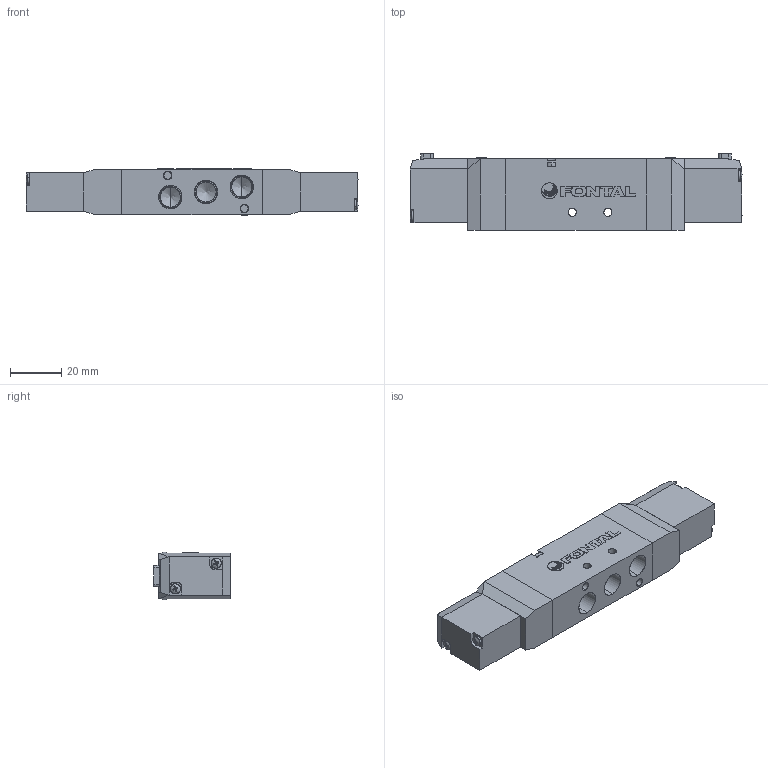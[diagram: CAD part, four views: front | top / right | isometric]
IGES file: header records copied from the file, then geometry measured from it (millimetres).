
Start section: SolidWorks IGES file using analytic representation for surfaces
Global section: file name: D:\Custom\3D繪製\PC\PC13\RCD3413-01-#-L-#.IGS,1; native system: 5HSolidWorks 2014; preprocessor: SolidWorks 2014; author: Chieh_Lu; date: 150915.184050; units: millimetre
Bounding box: 130.14 x 30 x 18.6 mm (x, y, z)
Surface area: 20134.6 mm2 (no closed solid volume)
Topology: 0 solids, 0 shells, 526 faces, 5126 edges, 5104 vertices
Faces by surface type: bspline 322, revolution 204
